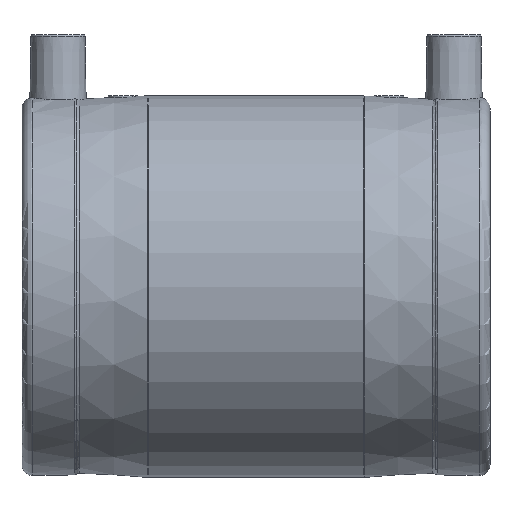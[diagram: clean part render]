
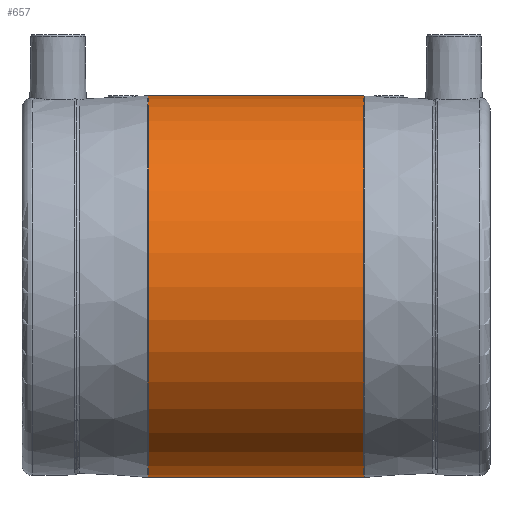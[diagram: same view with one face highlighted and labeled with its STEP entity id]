
A CAD part, front view. The second image highlights one B-rep face of the part: STEP entity #657.
In plain terms, the highlighted cylindrical face has radius 53 mm (diameter 106 mm), a full revolution.
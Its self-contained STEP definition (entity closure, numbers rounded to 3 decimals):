
#95=CYLINDRICAL_SURFACE('',#736,53.);
#176=ORIENTED_EDGE('',*,*,#332,.T.);
#177=ORIENTED_EDGE('',*,*,#333,.T.);
#332=EDGE_CURVE('',#408,#408,#458,.T.);
#333=EDGE_CURVE('',#409,#409,#459,.F.);
#408=VERTEX_POINT('',#1175);
#409=VERTEX_POINT('',#1177);
#458=CIRCLE('',#737,53.);
#459=CIRCLE('',#738,53.);
#506=EDGE_LOOP('',(#176));
#507=EDGE_LOOP('',(#177));
#582=FACE_BOUND('',#506,.T.);
#583=FACE_BOUND('',#507,.T.);
#657=ADVANCED_FACE('',(#582,#583),#95,.T.);
#736=AXIS2_PLACEMENT_3D('',#1173,#863,#864);
#737=AXIS2_PLACEMENT_3D('',#1174,#865,#866);
#738=AXIS2_PLACEMENT_3D('',#1176,#867,#868);
#863=DIRECTION('',(-1.,0.,0.));
#864=DIRECTION('',(0.,0.,1.));
#865=DIRECTION('',(1.,0.,0.));
#866=DIRECTION('',(0.,0.,-1.));
#867=DIRECTION('',(1.,0.,0.));
#868=DIRECTION('',(0.,0.,-1.));
#1173=CARTESIAN_POINT('',(-60.,0.,0.));
#1174=CARTESIAN_POINT('',(-29.998,0.,0.));
#1175=CARTESIAN_POINT('',(-29.998,0.,-53.));
#1176=CARTESIAN_POINT('',(29.998,0.,0.));
#1177=CARTESIAN_POINT('',(29.998,0.,-53.));
